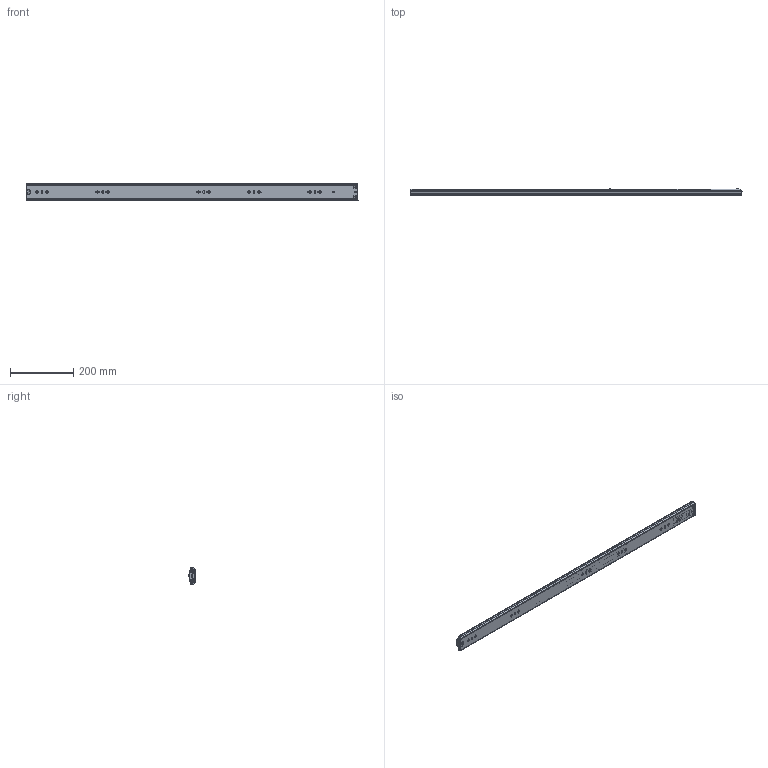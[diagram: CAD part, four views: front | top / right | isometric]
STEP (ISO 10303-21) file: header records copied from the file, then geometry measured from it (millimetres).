
FILE_DESCRIPTION((''),'2;1');
FILE_NAME('1053-HD-1050_ASM','2023-11-18T',('jishu015'),(''),'PRO/ENGINEER BY PARAMETRIC TECHNOLOGY CORPORATION, 2010280','PRO/ENGINEER BY PARAMETRIC TECHNOLOGY CORPORATION, 2010280','');
FILE_SCHEMA(('CONFIG_CONTROL_DESIGN'));
Products named in the file (25): 1053-02-18WAIKE11____; MANIFOLD_SOLID_BREP_512____; MANIFOLD_SOLID_BREP_5212____; MANIFOLD_SOLID_BREP_5312____; ADMI29141B9BC7PD_ASM11___ASM; ASM0001_______________ASM; 53_ASM_______________ASM; 1053-02-18XTPJG-DAZHUJIA2______; 1053-02-18XTPJG-5-6GANZHU13_; ZHONGGUIJIAO-11________________; 1053-02-18XTPJG-DAZHUJIA1233_ASM; 1053-02-18WAIKE11_____ASM; 1053-02-18ZHONGGUI11_______; 53ZHIDIJIAO12____; 3X6-MAODING______________; 1053-02-18ZHONGGUI11________ASM; 1053XIAOZHUJIA-14GE11________; 53-5-6GANZHU12____; 1053XIAOZHUJIA-14GE11_________ASM; 1053-02-18NEIGUI12_____; 53BACHA12____; XIAOMAODING______________; 3X4MAODING______________; 1053-02-18NEIGUI12______ASM; 1053-HD-1050_ASM
Assembly tree (167 placements, depth 6):
  1053-HD-1050_ASM
    1053-02-18WAIKE11_____ASM
      1053-02-18WAIKE11____
      53_ASM_______________ASM
        ASM0001_______________ASM
          ADMI29141B9BC7PD_ASM11___ASM
            MANIFOLD_SOLID_BREP_512____
            MANIFOLD_SOLID_BREP_5212____
            MANIFOLD_SOLID_BREP_5312____
      1053-02-18XTPJG-DAZHUJIA1233_ASM
        1053-02-18XTPJG-DAZHUJIA2______
        1053-02-18XTPJG-5-6GANZHU13_  x72
        ZHONGGUIJIAO-11________________  x2
    1053-02-18ZHONGGUI11________ASM
      1053-02-18ZHONGGUI11_______
      53ZHIDIJIAO12____
      3X6-MAODING______________
    1053XIAOZHUJIA-14GE11_________ASM
      1053XIAOZHUJIA-14GE11________
      53-5-6GANZHU12____  x72
    1053-02-18NEIGUI12______ASM
      1053-02-18NEIGUI12_____
      53BACHA12____
      XIAOMAODING______________
      3X4MAODING______________
Bounding box: 1052.1 x 19.75 x 53 mm (x, y, z)
Volume: 403098.9 mm3; surface area: 500712.1 mm2
Topology: 159 solids, 159 shells, 5052 faces, 14109 edges, 8776 vertices
Faces by surface type: plane 2207, cylinder 2076, sphere 318, bspline 262, cone 127, torus 60, extrusion 2
Entity records: 174668 total; most frequent: CARTESIAN_POINT 52327, ORIENTED_EDGE 26012, DIRECTION 24927, EDGE_CURVE 13006, AXIS2_PLACEMENT_3D 8519, VERTEX_POINT 8366, VECTOR 7889, LINE 7887
